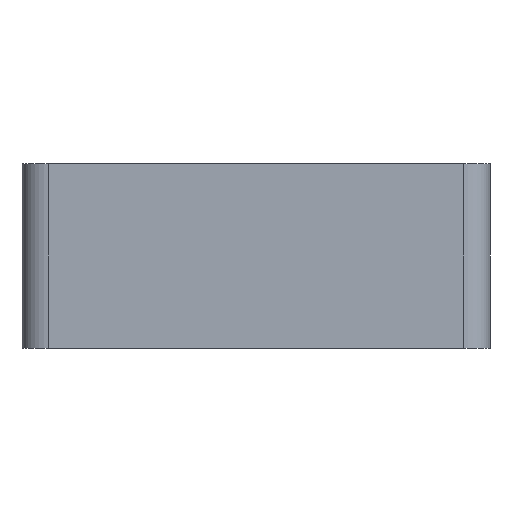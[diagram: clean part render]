
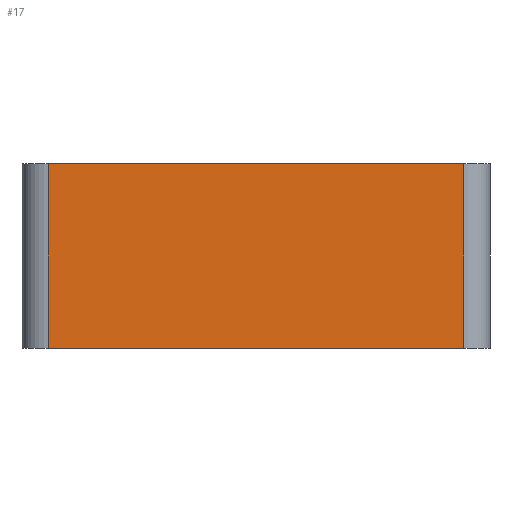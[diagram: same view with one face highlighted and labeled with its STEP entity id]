
A CAD part, left-side view. The second image highlights one B-rep face of the part: STEP entity #17.
In plain terms, the highlighted planar face has unit normal (-1, 0, 0).
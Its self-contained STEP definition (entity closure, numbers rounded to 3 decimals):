
#17 = ADVANCED_FACE('',(#18),#32,.F.);
#18 = FACE_BOUND('',#19,.F.);
#19 = EDGE_LOOP('',(#20,#55,#83,#111));
#20 = ORIENTED_EDGE('',*,*,#21,.F.);
#21 = EDGE_CURVE('',#22,#24,#26,.T.);
#22 = VERTEX_POINT('',#23);
#23 = CARTESIAN_POINT('',(548.5,-7.9,10.));
#24 = VERTEX_POINT('',#25);
#25 = CARTESIAN_POINT('',(548.5,7.9,10.));
#26 = SURFACE_CURVE('',#27,(#31,#43),.PCURVE_S1.);
#27 = LINE('',#28,#29);
#28 = CARTESIAN_POINT('',(548.5,-8.9,10.));
#29 = VECTOR('',#30,1.);
#30 = DIRECTION('',(0.,1.,0.));
#31 = PCURVE('',#32,#37);
#32 = PLANE('',#33);
#33 = AXIS2_PLACEMENT_3D('',#34,#35,#36);
#34 = CARTESIAN_POINT('',(548.5,-8.9,3.));
#35 = DIRECTION('',(1.,0.,0.));
#36 = DIRECTION('',(0.,0.,1.));
#37 = DEFINITIONAL_REPRESENTATION('',(#38),#42);
#38 = LINE('',#39,#40);
#39 = CARTESIAN_POINT('',(7.,0.));
#40 = VECTOR('',#41,1.);
#41 = DIRECTION('',(0.,-1.));
#42 = ( GEOMETRIC_REPRESENTATION_CONTEXT(2) 
PARAMETRIC_REPRESENTATION_CONTEXT() REPRESENTATION_CONTEXT('2D SPACE',''
  ) );
#43 = PCURVE('',#44,#49);
#44 = PLANE('',#45);
#45 = AXIS2_PLACEMENT_3D('',#46,#47,#48);
#46 = CARTESIAN_POINT('',(548.5,-8.9,10.));
#47 = DIRECTION('',(0.,0.,1.));
#48 = DIRECTION('',(1.,0.,0.));
#49 = DEFINITIONAL_REPRESENTATION('',(#50),#54);
#50 = LINE('',#51,#52);
#51 = CARTESIAN_POINT('',(0.,0.));
#52 = VECTOR('',#53,1.);
#53 = DIRECTION('',(0.,1.));
#54 = ( GEOMETRIC_REPRESENTATION_CONTEXT(2) 
PARAMETRIC_REPRESENTATION_CONTEXT() REPRESENTATION_CONTEXT('2D SPACE',''
  ) );
#55 = ORIENTED_EDGE('',*,*,#56,.F.);
#56 = EDGE_CURVE('',#57,#22,#59,.T.);
#57 = VERTEX_POINT('',#58);
#58 = CARTESIAN_POINT('',(548.5,-7.9,3.));
#59 = SURFACE_CURVE('',#60,(#64,#71),.PCURVE_S1.);
#60 = LINE('',#61,#62);
#61 = CARTESIAN_POINT('',(548.5,-7.9,3.));
#62 = VECTOR('',#63,1.);
#63 = DIRECTION('',(0.,0.,1.));
#64 = PCURVE('',#32,#65);
#65 = DEFINITIONAL_REPRESENTATION('',(#66),#70);
#66 = LINE('',#67,#68);
#67 = CARTESIAN_POINT('',(0.,-1.));
#68 = VECTOR('',#69,1.);
#69 = DIRECTION('',(1.,0.));
#70 = ( GEOMETRIC_REPRESENTATION_CONTEXT(2) 
PARAMETRIC_REPRESENTATION_CONTEXT() REPRESENTATION_CONTEXT('2D SPACE',''
  ) );
#71 = PCURVE('',#72,#77);
#72 = CYLINDRICAL_SURFACE('',#73,1.);
#73 = AXIS2_PLACEMENT_3D('',#74,#75,#76);
#74 = CARTESIAN_POINT('',(549.5,-7.9,3.));
#75 = DIRECTION('',(0.,0.,1.));
#76 = DIRECTION('',(-1.,-0.,0.));
#77 = DEFINITIONAL_REPRESENTATION('',(#78),#82);
#78 = LINE('',#79,#80);
#79 = CARTESIAN_POINT('',(0.,0.));
#80 = VECTOR('',#81,1.);
#81 = DIRECTION('',(0.,1.));
#82 = ( GEOMETRIC_REPRESENTATION_CONTEXT(2) 
PARAMETRIC_REPRESENTATION_CONTEXT() REPRESENTATION_CONTEXT('2D SPACE',''
  ) );
#83 = ORIENTED_EDGE('',*,*,#84,.T.);
#84 = EDGE_CURVE('',#57,#85,#87,.T.);
#85 = VERTEX_POINT('',#86);
#86 = CARTESIAN_POINT('',(548.5,7.9,3.));
#87 = SURFACE_CURVE('',#88,(#92,#99),.PCURVE_S1.);
#88 = LINE('',#89,#90);
#89 = CARTESIAN_POINT('',(548.5,-8.9,3.));
#90 = VECTOR('',#91,1.);
#91 = DIRECTION('',(0.,1.,0.));
#92 = PCURVE('',#32,#93);
#93 = DEFINITIONAL_REPRESENTATION('',(#94),#98);
#94 = LINE('',#95,#96);
#95 = CARTESIAN_POINT('',(0.,0.));
#96 = VECTOR('',#97,1.);
#97 = DIRECTION('',(0.,-1.));
#98 = ( GEOMETRIC_REPRESENTATION_CONTEXT(2) 
PARAMETRIC_REPRESENTATION_CONTEXT() REPRESENTATION_CONTEXT('2D SPACE',''
  ) );
#99 = PCURVE('',#100,#105);
#100 = PLANE('',#101);
#101 = AXIS2_PLACEMENT_3D('',#102,#103,#104);
#102 = CARTESIAN_POINT('',(548.5,-8.9,3.));
#103 = DIRECTION('',(0.,0.,1.));
#104 = DIRECTION('',(1.,0.,0.));
#105 = DEFINITIONAL_REPRESENTATION('',(#106),#110);
#106 = LINE('',#107,#108);
#107 = CARTESIAN_POINT('',(0.,0.));
#108 = VECTOR('',#109,1.);
#109 = DIRECTION('',(0.,1.));
#110 = ( GEOMETRIC_REPRESENTATION_CONTEXT(2) 
PARAMETRIC_REPRESENTATION_CONTEXT() REPRESENTATION_CONTEXT('2D SPACE',''
  ) );
#111 = ORIENTED_EDGE('',*,*,#112,.T.);
#112 = EDGE_CURVE('',#85,#24,#113,.T.);
#113 = SURFACE_CURVE('',#114,(#118,#125),.PCURVE_S1.);
#114 = LINE('',#115,#116);
#115 = CARTESIAN_POINT('',(548.5,7.9,3.));
#116 = VECTOR('',#117,1.);
#117 = DIRECTION('',(0.,0.,1.));
#118 = PCURVE('',#32,#119);
#119 = DEFINITIONAL_REPRESENTATION('',(#120),#124);
#120 = LINE('',#121,#122);
#121 = CARTESIAN_POINT('',(0.,-16.8));
#122 = VECTOR('',#123,1.);
#123 = DIRECTION('',(1.,0.));
#124 = ( GEOMETRIC_REPRESENTATION_CONTEXT(2) 
PARAMETRIC_REPRESENTATION_CONTEXT() REPRESENTATION_CONTEXT('2D SPACE',''
  ) );
#125 = PCURVE('',#126,#131);
#126 = CYLINDRICAL_SURFACE('',#127,1.);
#127 = AXIS2_PLACEMENT_3D('',#128,#129,#130);
#128 = CARTESIAN_POINT('',(549.5,7.9,3.));
#129 = DIRECTION('',(0.,0.,1.));
#130 = DIRECTION('',(-1.,-0.,0.));
#131 = DEFINITIONAL_REPRESENTATION('',(#132),#136);
#132 = LINE('',#133,#134);
#133 = CARTESIAN_POINT('',(-0.,0.));
#134 = VECTOR('',#135,1.);
#135 = DIRECTION('',(-0.,1.));
#136 = ( GEOMETRIC_REPRESENTATION_CONTEXT(2) 
PARAMETRIC_REPRESENTATION_CONTEXT() REPRESENTATION_CONTEXT('2D SPACE',''
  ) );
